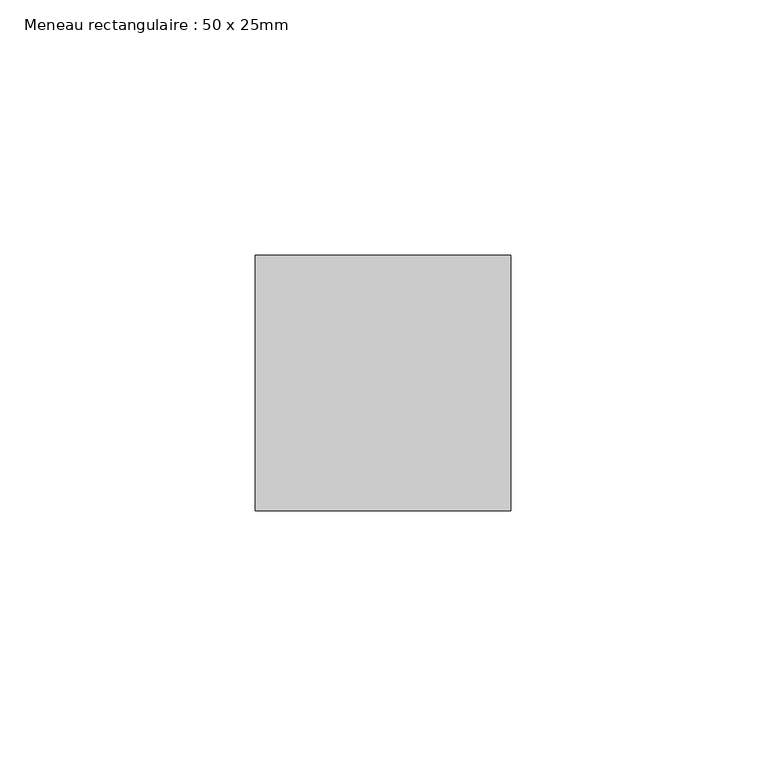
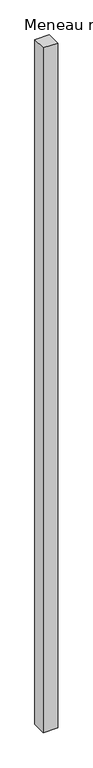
"""IFC4 building model written with IfcOpenShell, lengths in millimetres: member geometry, Meneau rectangulaire : 50 x 25mm."""

from ifc_helpers import new_model, si_unit, frame, origin, place, context, project, spatial, polyline, outline, extrude, source, transform, mapped, element, save


def meneau_rectangulaire_50_x_25mm_dece0fb1(model_context):
    return source(origin(), model_context, "Body", "SweptSolid", [
        extrude(outline(polyline([(25.0, 0.0), (25.0, -50.0), (-25.0, -50.0), (-25.0, 0.0), (25.0, 0.0)])), frame((0.0, 0.0, -2513.0), z_axis=(0.0, 0.0, 1.0), x_axis=(1.0, 0.0, 0.0)), (0.0, 0.0, 1.0), 2513.0),
    ])


if __name__ == "__main__":
    model = new_model("IFC4")
    model_context = context("Model", 3, world=origin())
    ifc_project = project(units=[si_unit("LENGTHUNIT", "METRE", prefix="MILLI")], contexts=[model_context])
    site = spatial("IfcSite", under=ifc_project)
    building = spatial("IfcBuilding", under=site)
    placement = place(None, origin())
    meneau_rectangulaire_50_x_25mm_shape = meneau_rectangulaire_50_x_25mm_dece0fb1(model_context)
    element("IfcMember", 1, ObjectType="Meneau rectangulaire : 50 x 25mm", at=placement, inside=building, context=model_context, shape_type="MappedRepresentation", body=[
        mapped(meneau_rectangulaire_50_x_25mm_shape, transform((0.0, 0.0, 0.0), x_axis=(1.0, 0.0, 0.0), y_axis=(0.0, 1.0, 0.0), z_axis=(0.0, 0.0, 1.0))),
    ])
    save(model, "model.ifc")
